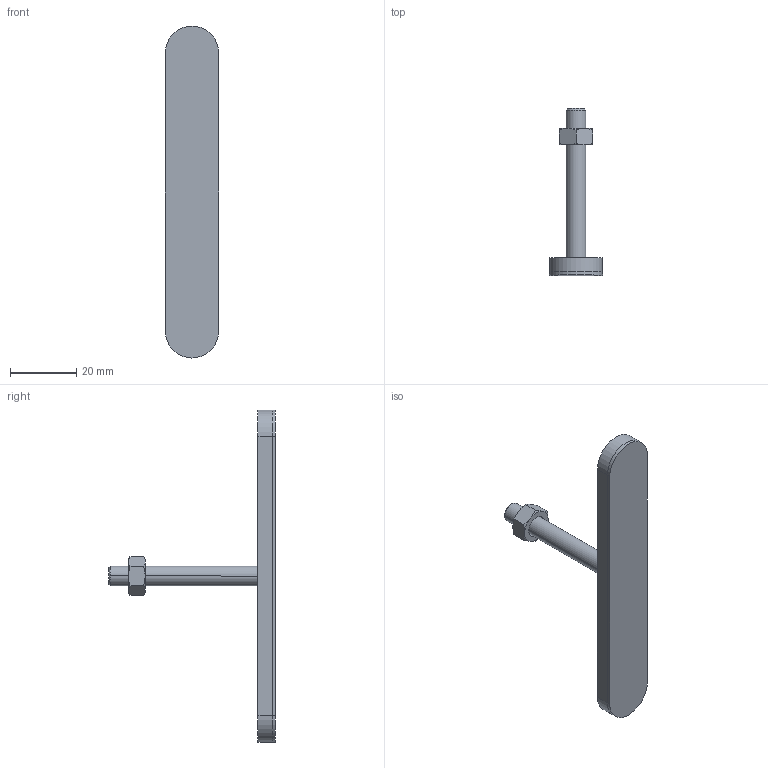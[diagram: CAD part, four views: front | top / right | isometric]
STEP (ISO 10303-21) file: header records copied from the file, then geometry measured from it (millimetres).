
FILE_DESCRIPTION (( 'STEP AP203' ), '1' );
FILE_NAME ('PF-M6 - 51x100.STEP', '2015-07-21T12:18:44', ( 'Ricardo' ), ( '' ), 'SwSTEP 2.0', 'SolidWorks 2014', '' );
FILE_SCHEMA (( 'CONFIG_CONTROL_DESIGN' ));
Length unit declared in the file: millimetre
Products named in the file (5): 12.50002; 20.20059; PF-M6 - 51x100; 20.20021; 11.50001
Assembly tree (4 placements, depth 2):
  PF-M6 - 51x100
    20.20059
    20.20021
    12.50002
    11.50001
Bounding box: 16 x 50.25 x 100 mm (x, y, z)
Volume: 9662.9 mm3; surface area: 8813.4 mm2
Topology: 4 solids, 4 shells, 63 faces, 144 edges, 90 vertices
Faces by surface type: plane 31, cone 18, cylinder 14
Entity records: 2363 total; most frequent: CARTESIAN_POINT 424, DIRECTION 306, ORIENTED_EDGE 288, EDGE_CURVE 144, AXIS2_PLACEMENT_3D 116, VERTEX_POINT 90, LINE 74, VECTOR 74
